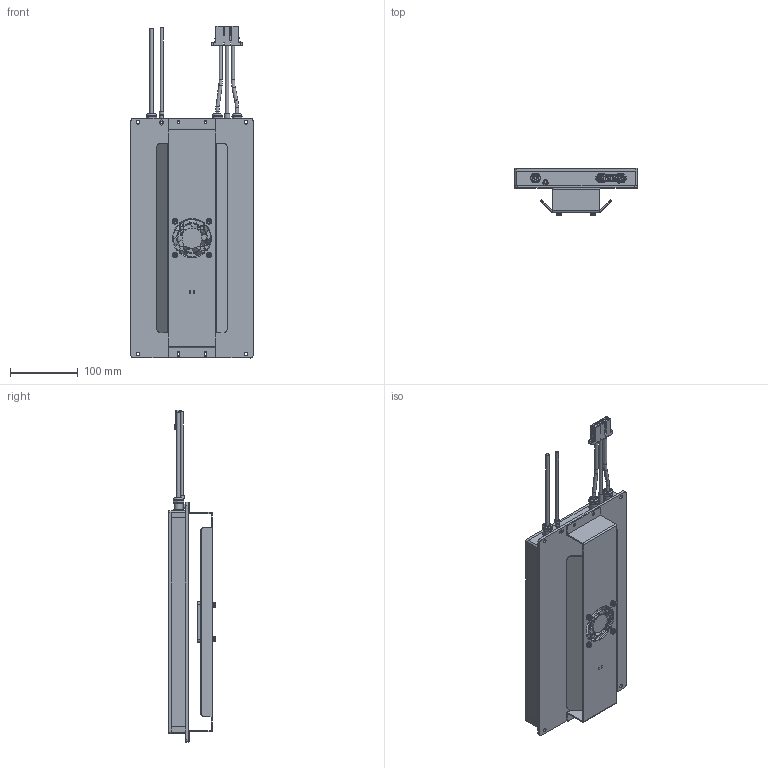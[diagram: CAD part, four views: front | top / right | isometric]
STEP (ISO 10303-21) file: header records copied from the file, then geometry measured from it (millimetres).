
FILE_DESCRIPTION(/* description */ ('','CAx-IF Rec.Pracs.---Representation and Presentation of Product Manufacturing Information (PMI)---4.0---2014-10-13'),/* implementation_level */ '2;1');
FILE_NAME(/* name */ 'G:\06_WPT_코일패드\[ 3D 설계_2021.05~ ]\[ TX COIL PAD ]\최종 3d 고객도면_2023.04.28\TWC-2500W-A-TXCOIL.stp',/* time_stamp */ '2023-05-08T17:15:25+09:00',/* author */ ('jjang'),/* organization */ (''),/* preprocessor_version */ 'ST-DEVELOPER v18.1',/* originating_system */ 'Autodesk Inventor 2021',/* authorisation */ '');
FILE_SCHEMA (('AP242_MANAGED_MODEL_BASED_3D_ENGINEERING_MIM_LF { 1 0 10303 442 1 1 4 }'));
Products named in the file (1): TX 코일패드_TWC-2500W-A-TXCOIL_2023.04.28_Shrinkwrap_
1
Bounding box: 181 x 69.73 x 491.77 mm (x, y, z)
Volume: 10796.1 mm3; surface area: 401631.7 mm2
Topology: 2 solids, 3 shells, 2805 faces, 7478 edges, 4949 vertices
Faces by surface type: plane 1729, bspline 590, cylinder 367, torus 103, cone 9, sphere 7
Full cylindrical faces by diameter (mm): 0.245 x3, 0.29 x3, 0.9 x2, 3.182 x3, 3.25 x1, 3.6 x1, 4 x16, 4.2 x1, 4.3 x5, 4.4 x2, 4.9 x2, 5 x7, 5.2 x4, 5.4 x4, 5.6 x1, 6 x1, 6.5 x1, 7 x3, 7.084 x4, 7.6 x1, 7.636 x3, 7.8 x4, 8.3 x1, 8.591 x3, 10 x1, 12.727 x3, 14 x6, 22.004 x1, 25.4 x1, 29.055 x1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
Entity records: 97418 total; most frequent: CARTESIAN_POINT 27783, ORIENTED_EDGE 14936, DIRECTION 11846, EDGE_CURVE 7468, LINE 4952, VECTOR 4952, VERTEX_POINT 4947, AXIS2_PLACEMENT_3D 3447
